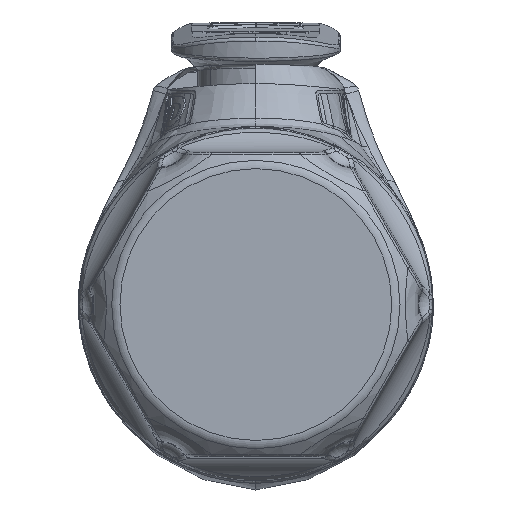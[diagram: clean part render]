
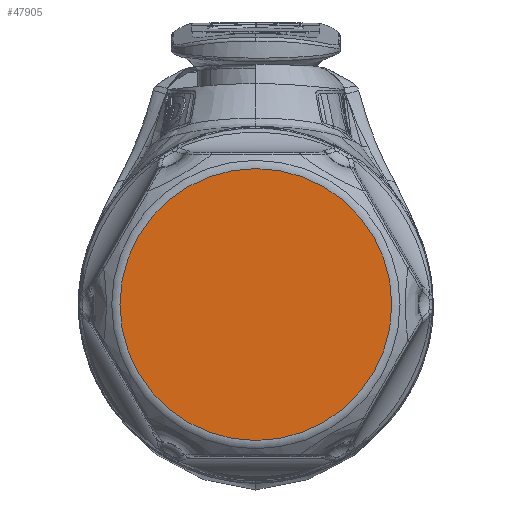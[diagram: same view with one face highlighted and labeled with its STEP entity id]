
A CAD part, front view. The second image highlights one B-rep face of the part: STEP entity #47905.
In plain terms, the highlighted planar face has unit normal (0, -1, 0).
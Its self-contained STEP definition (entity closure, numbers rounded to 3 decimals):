
#3145 = AXIS2_PLACEMENT_3D ( 'NONE', #50597, #12430, #5027 ) ;
#5027 = DIRECTION ( 'NONE',  ( 1., 0., 0. ) ) ;
#12430 = DIRECTION ( 'NONE',  ( 0., -1., 0. ) ) ;
#30230 = PLANE ( 'NONE',  #54684 ) ;
#33110 = CIRCLE ( 'NONE', #3145, 11.016 ) ;
#44139 = CARTESIAN_POINT ( 'NONE',  ( 0., -58.7, 0. ) ) ;
#44628 = FACE_OUTER_BOUND ( 'NONE', #79999, .T. ) ;
#47905 = ADVANCED_FACE ( 'NONE', ( #44628 ), #30230, .T. ) ;
#50597 = CARTESIAN_POINT ( 'NONE',  ( 0., -58.7, 0. ) ) ;
#54684 = AXIS2_PLACEMENT_3D ( 'NONE', #44139, #74294, #66860 ) ;
#66860 = DIRECTION ( 'NONE',  ( 0., 0., -1. ) ) ;
#74294 = DIRECTION ( 'NONE',  ( 0., -1., 0. ) ) ;
#77360 = EDGE_CURVE ( 'NONE', #83156, #83156, #33110, .T. ) ;
#79999 = EDGE_LOOP ( 'NONE', ( #80525 ) ) ;
#80525 = ORIENTED_EDGE ( 'NONE', *, *, #77360, .T. ) ;
#83156 = VERTEX_POINT ( 'NONE', #91559 ) ;
#91559 = CARTESIAN_POINT ( 'NONE',  ( 11.016, -58.7, 0. ) ) ;
